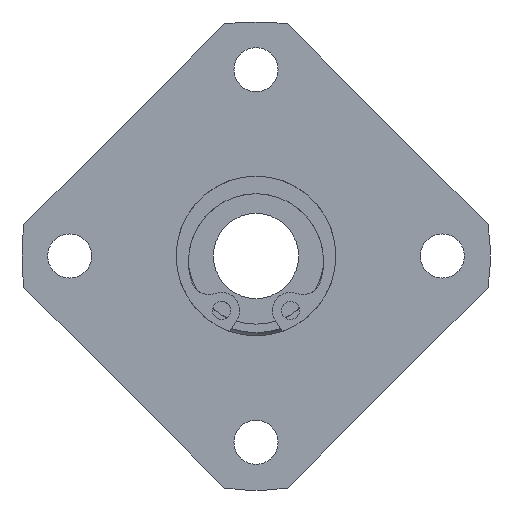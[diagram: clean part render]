
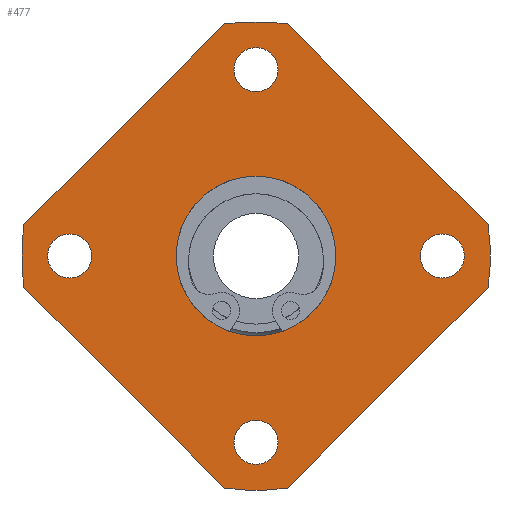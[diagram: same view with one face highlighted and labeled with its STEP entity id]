
A CAD part, left-side view. The second image highlights one B-rep face of the part: STEP entity #477.
In plain terms, the highlighted planar face has unit normal (-1, 0, 0).
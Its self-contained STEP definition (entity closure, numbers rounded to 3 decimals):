
#60=CARTESIAN_POINT('',(0.0,17.5,-2.067));
#61=VERTEX_POINT('',#60);
#62=CARTESIAN_POINT('',(0.0,17.5,0.));
#63=DIRECTION('',(1.0,0.0,0.0));
#64=DIRECTION('',(0.0,0.0,-1.0));
#65=AXIS2_PLACEMENT_3D('',#62,#63,#64);
#66=CIRCLE('',#65,2.067);
#67=EDGE_CURVE('',#61,#61,#66,.T.);
#88=CARTESIAN_POINT('',(0.0,-2.067,-17.5));
#89=VERTEX_POINT('',#88);
#90=CARTESIAN_POINT('',(0.0,0.,-17.5));
#91=DIRECTION('',(1.0,0.0,0.0));
#92=DIRECTION('',(0.0,-1.0,0.0));
#93=AXIS2_PLACEMENT_3D('',#90,#91,#92);
#94=CIRCLE('',#93,2.067);
#95=EDGE_CURVE('',#89,#89,#94,.T.);
#116=CARTESIAN_POINT('',(0.0,-17.5,2.067));
#117=VERTEX_POINT('',#116);
#118=CARTESIAN_POINT('',(0.0,-17.5,0.));
#119=DIRECTION('',(1.0,0.0,0.0));
#120=DIRECTION('',(0.0,0.0,1.0));
#121=AXIS2_PLACEMENT_3D('',#118,#119,#120);
#122=CIRCLE('',#121,2.067);
#123=EDGE_CURVE('',#117,#117,#122,.T.);
#144=CARTESIAN_POINT('',(0.0,2.067,17.5));
#145=VERTEX_POINT('',#144);
#146=CARTESIAN_POINT('',(0.0,0.0,17.5));
#147=DIRECTION('',(1.0,0.0,0.0));
#148=DIRECTION('',(0.0,1.0,0.0));
#149=AXIS2_PLACEMENT_3D('',#146,#147,#148);
#150=CIRCLE('',#149,2.067);
#151=EDGE_CURVE('',#145,#145,#150,.T.);
#171=CARTESIAN_POINT('',(0.0,2.947,-21.802));
#172=VERTEX_POINT('',#171);
#179=CARTESIAN_POINT('',(0.0,21.802,-2.947));
#180=VERTEX_POINT('',#179);
#181=CARTESIAN_POINT('',(0.0,21.802,-2.947));
#182=DIRECTION('',(0.0,-0.707,-0.707));
#183=VECTOR('',#182,26.665);
#184=LINE('',#181,#183);
#185=EDGE_CURVE('',#180,#172,#184,.T.);
#211=CARTESIAN_POINT('',(0.0,21.802,2.947));
#212=VERTEX_POINT('',#211);
#219=CARTESIAN_POINT('',(0.0,2.947,21.802));
#220=VERTEX_POINT('',#219);
#221=CARTESIAN_POINT('',(0.0,2.947,21.802));
#222=DIRECTION('',(0.0,0.707,-0.707));
#223=VECTOR('',#222,26.665);
#224=LINE('',#221,#223);
#225=EDGE_CURVE('',#220,#212,#224,.T.);
#251=CARTESIAN_POINT('',(0.0,-21.802,-2.947));
#252=VERTEX_POINT('',#251);
#259=CARTESIAN_POINT('',(0.0,-2.947,-21.802));
#260=VERTEX_POINT('',#259);
#261=CARTESIAN_POINT('',(0.0,-2.947,-21.802));
#262=DIRECTION('',(0.0,-0.707,0.707));
#263=VECTOR('',#262,26.665);
#264=LINE('',#261,#263);
#265=EDGE_CURVE('',#260,#252,#264,.T.);
#291=CARTESIAN_POINT('',(0.0,-2.947,21.802));
#292=VERTEX_POINT('',#291);
#299=CARTESIAN_POINT('',(0.0,-21.802,2.947));
#300=VERTEX_POINT('',#299);
#301=CARTESIAN_POINT('',(0.0,-21.802,2.947));
#302=DIRECTION('',(0.0,0.707,0.707));
#303=VECTOR('',#302,26.665);
#304=LINE('',#301,#303);
#305=EDGE_CURVE('',#300,#292,#304,.T.);
#330=CARTESIAN_POINT('',(0.0,0.0,0.0));
#331=DIRECTION('',(-1.0,0.0,0.0));
#332=DIRECTION('',(0.0,0.0,1.0));
#333=AXIS2_PLACEMENT_3D('',#330,#331,#332);
#334=CIRCLE('',#333,22.0);
#335=EDGE_CURVE('',#252,#300,#334,.T.);
#346=CARTESIAN_POINT('',(0.0,0.0,0.0));
#347=DIRECTION('',(-1.0,0.0,0.0));
#348=DIRECTION('',(0.0,0.0,1.0));
#349=AXIS2_PLACEMENT_3D('',#346,#347,#348);
#350=CIRCLE('',#349,22.0);
#351=EDGE_CURVE('',#292,#220,#350,.T.);
#370=CARTESIAN_POINT('',(0.0,0.0,0.0));
#371=DIRECTION('',(-1.0,0.0,0.0));
#372=DIRECTION('',(0.0,0.0,1.0));
#373=AXIS2_PLACEMENT_3D('',#370,#371,#372);
#374=CIRCLE('',#373,22.0);
#375=EDGE_CURVE('',#212,#180,#374,.T.);
#433=CARTESIAN_POINT('',(0.0,0.0,14.75));
#434=DIRECTION('',(-1.0,0.0,0.0));
#435=DIRECTION('',(0.0,0.0,1.0));
#436=AXIS2_PLACEMENT_3D('',#433,#434,#435);
#437=PLANE('',#436);
#438=ORIENTED_EDGE('',*,*,#185,.T.);
#439=CARTESIAN_POINT('',(0.0,0.0,0.0));
#440=DIRECTION('',(-1.0,0.0,0.0));
#441=DIRECTION('',(0.0,0.0,1.0));
#442=AXIS2_PLACEMENT_3D('',#439,#440,#441);
#443=CIRCLE('',#442,22.0);
#444=EDGE_CURVE('',#172,#260,#443,.T.);
#445=ORIENTED_EDGE('',*,*,#444,.T.);
#446=ORIENTED_EDGE('',*,*,#265,.T.);
#447=ORIENTED_EDGE('',*,*,#335,.T.);
#448=ORIENTED_EDGE('',*,*,#305,.T.);
#449=ORIENTED_EDGE('',*,*,#351,.T.);
#450=ORIENTED_EDGE('',*,*,#225,.T.);
#451=ORIENTED_EDGE('',*,*,#375,.T.);
#452=EDGE_LOOP('',(#438,#445,#446,#447,#448,#449,#450,#451));
#453=FACE_OUTER_BOUND('',#452,.T.);
#454=ORIENTED_EDGE('',*,*,#67,.T.);
#455=EDGE_LOOP('',(#454));
#456=FACE_BOUND('',#455,.T.);
#457=ORIENTED_EDGE('',*,*,#95,.T.);
#458=EDGE_LOOP('',(#457));
#459=FACE_BOUND('',#458,.T.);
#460=ORIENTED_EDGE('',*,*,#123,.T.);
#461=EDGE_LOOP('',(#460));
#462=FACE_BOUND('',#461,.T.);
#463=ORIENTED_EDGE('',*,*,#151,.T.);
#464=EDGE_LOOP('',(#463));
#465=FACE_BOUND('',#464,.T.);
#466=CARTESIAN_POINT('',(0.0,0.0,7.5));
#467=VERTEX_POINT('',#466);
#468=CARTESIAN_POINT('',(0.0,0.0,0.0));
#469=DIRECTION('',(-1.0,0.0,0.0));
#470=DIRECTION('',(0.0,0.0,1.0));
#471=AXIS2_PLACEMENT_3D('',#468,#469,#470);
#472=CIRCLE('',#471,7.5);
#473=EDGE_CURVE('',#467,#467,#472,.T.);
#474=ORIENTED_EDGE('',*,*,#473,.F.);
#475=EDGE_LOOP('',(#474));
#476=FACE_BOUND('',#475,.T.);
#477=ADVANCED_FACE('',(#453,#456,#459,#462,#465,#476),#437,.T.);
